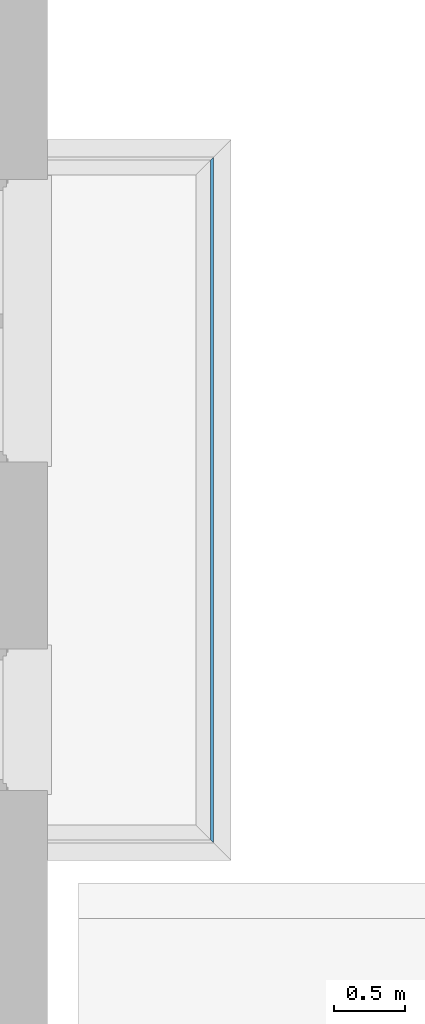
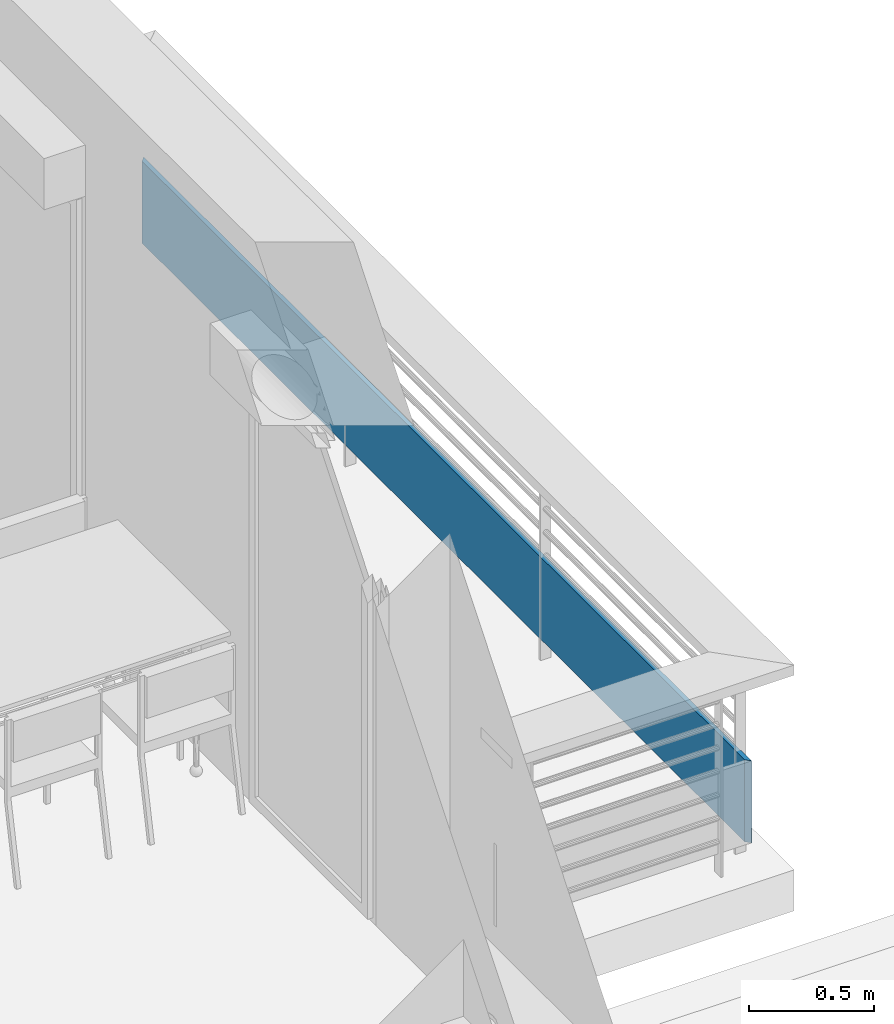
# One storey, part 35 of 164: 1 wall.
"""IFC2X3 building model written with IfcOpenShell, lengths in millimetres."""

from ifc_helpers import new_model, entity, si_unit, converted_unit, derived_unit, money_unit, direction, frame, origin_with_axes, place, context, subcontext, project, spatial, polyline, outline, extrude, material, layer, layer_set, layer_usage, type_object, element, save


model = new_model("IFC2X3")

# Units and contexts
model_context = context("Model", 3, precision=0.01, world=origin_with_axes(), true_north=direction((0.0, 1.0)))
body_context = subcontext(model_context, "Body", "Model", "MODEL_VIEW")
ifc_project = project(units=[si_unit("LENGTHUNIT", "METRE", prefix="MILLI"), si_unit("AREAUNIT", "SQUARE_METRE"), si_unit("VOLUMEUNIT", "CUBIC_METRE"), converted_unit("PLANEANGLEUNIT", "DEGREE", entity("IfcPlaneAngleMeasure", 0.0174532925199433), si_unit("PLANEANGLEUNIT", "RADIAN"), dimensions=[0, 0, 0, 0, 0, 0, 0]), money_unit("USD"), converted_unit("TIMEUNIT", "Year", entity("IfcTimeMeasure", 31557600.0), si_unit("TIMEUNIT", "SECOND"), dimensions=[0, 0, 1, 0, 0, 0, 0]), si_unit("MASSUNIT", "GRAM", prefix="KILO"), si_unit("THERMODYNAMICTEMPERATUREUNIT", "DEGREE_CELSIUS"), si_unit("LUMINOUSINTENSITYUNIT", "LUMEN"), si_unit("ENERGYUNIT", "JOULE", prefix="MEGA"), derived_unit("THERMALCONDUCTANCEUNIT", [(si_unit("POWERUNIT", "WATT"), 1), (si_unit("LENGTHUNIT", "METRE"), -1), (si_unit("THERMODYNAMICTEMPERATUREUNIT", "KELVIN"), -1)]), derived_unit("SPECIFICHEATCAPACITYUNIT", [(si_unit("ENERGYUNIT", "JOULE"), 1), (si_unit("MASSUNIT", "GRAM", prefix="KILO"), -1), (si_unit("THERMODYNAMICTEMPERATUREUNIT", "KELVIN"), -1)]), derived_unit("MASSDENSITYUNIT", [(si_unit("MASSUNIT", "GRAM", prefix="KILO"), 1), (si_unit("VOLUMEUNIT", "CUBIC_METRE"), -1)])], contexts=[model_context])

# Site, building, storey
site_placement = place(None, origin_with_axes())
site = spatial("IfcSite", under=ifc_project, at=site_placement, Name="Site", CompositionType="ELEMENT")
building_placement = place(site_placement, origin_with_axes())
building = spatial("IfcBuilding", under=site, at=building_placement, Name="Bâtiment", CompositionType="ELEMENT")
storey_placement = place(building_placement, frame((0.0, 0.0, 5750.0), z_axis=(0.0, 0.0, 1.0), x_axis=(1.0, 0.0, 0.0)))
storey = spatial("IfcBuildingStorey", under=building, at=storey_placement, Name="Etage1", CompositionType="ELEMENT", Elevation=5750.0)

# Wall
ifc_material = material(Name="MANQUANT")
ifc_layer = layer(ifc_material, 20.0, ventilated="UNKNOWN")
ifc_layer_set = layer_set([ifc_layer], Name="MANQUANT 20")
ifc_layer_usage = layer_usage(ifc_layer_set, "AXIS2", "NEGATIVE", 20.0)
wall_type = type_object("IfcWallType", Name="MANQUANT 20", PredefinedType="NOTDEFINED")
wall_placement = place(storey_placement, frame((2230830.389056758, -631523.3549005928, 99.99999999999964), z_axis=(0.0, 0.0, 1.0), x_axis=(0.0, 1.0, 0.0)))
element("IfcWallStandardCase", 1, at=wall_placement, inside=storey, type_object=wall_type, material=ifc_layer_usage, Name="Mur-160", context=body_context, shape_type="SweptSolid", body=[
    extrude(outline(polyline([(0.0, 0.0), (4858.212518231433, 0.0), (4838.212518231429, 19.99999999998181), (20.00000000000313, 19.99999999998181), (0.0, 0.0)])), origin_with_axes(), (0.0, 0.0, 1.0), 400.0),
])

save(model, "model.ifc")
